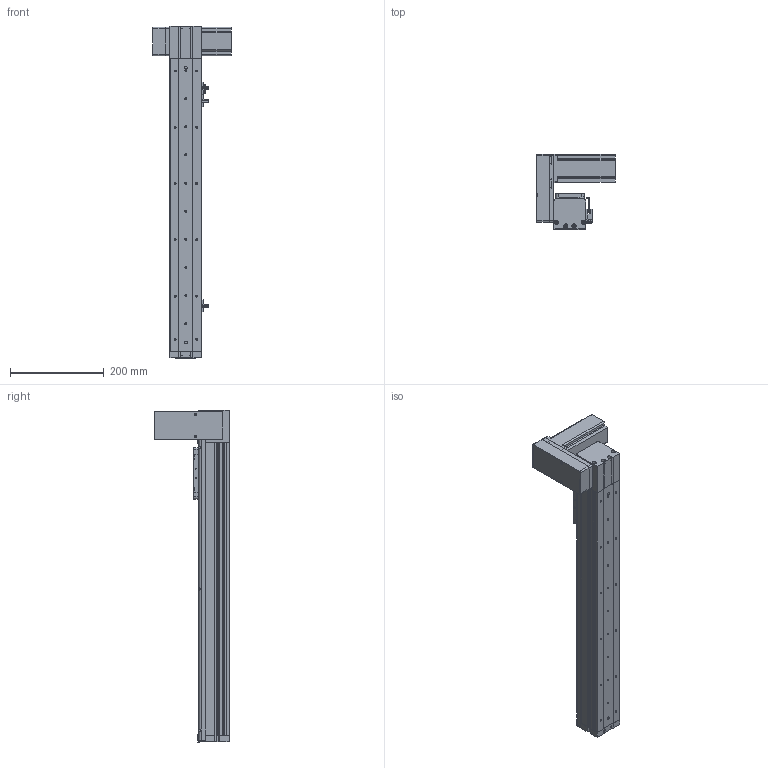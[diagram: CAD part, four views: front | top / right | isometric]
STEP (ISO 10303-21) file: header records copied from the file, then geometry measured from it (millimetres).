
FILE_DESCRIPTION (( 'STEP AP214' ), '1' );
FILE_NAME ('KSD68BS-S450-MRU-CR.STEP', '2019-11-08T05:51:17', ( '微软用户' ), ( '微软中国' ), 'SwSTEP 2.0', 'SolidWorks 2014', '' );
FILE_SCHEMA (( 'AUTOMOTIVE_DESIGN' ));
Length unit declared in the file: millimetre
Products named in the file (14): U倰嫖萇EEㄜSX672; 台达ECMA－C20604AS伺服电机（400W); KSD68BS 450行程底板全封闭; KSD68BS-S450-MRU-CR; 68遵裔啣揤啣1; KSD68BS 450行程盖板全封闭; 68宽单导轨全封闭丝杆传动安装板1防护罩; KSD68BS 450行程侧板全封闭; 68宽单导轨全封闭同步带端板; 68单导轨全封闭同步带电机座右; 68单导轨全封闭同步带安装板; 悵誘欶奻狟殏; 68宽马达安装板连板上折同步带; 感应片68宽全封闭
Assembly tree (17 placements, depth 2):
  KSD68BS-S450-MRU-CR
    KSD68BS 450行程底板全封闭
    台达ECMA－C20604AS伺服电机（400W)
    U倰嫖萇EEㄜSX672  x3
    感应片68宽全封闭
    68宽马达安装板连板上折同步带
    悵誘欶奻狟殏
    68单导轨全封闭同步带安装板
    68单导轨全封闭同步带电机座右
    68宽单导轨全封闭同步带端板
    KSD68BS 450行程侧板全封闭  x2
    68宽单导轨全封闭丝杆传动安装板1防护罩
    68遵裔啣揤啣1  x2
    KSD68BS 450行程盖板全封闭
Bounding box: 167.2 x 159.5 x 708.1 mm (x, y, z)
Volume: 1796804.9 mm3; surface area: 621987.9 mm2
Topology: 18 solids, 18 shells, 1388 faces, 3913 edges, 2515 vertices
Faces by surface type: cylinder 629, plane 623, cone 136
Entity records: 43114 total; most frequent: CARTESIAN_POINT 7221, DIRECTION 6529, ORIENTED_EDGE 6254, EDGE_CURVE 3127, AXIS2_PLACEMENT_3D 2325, VERTEX_POINT 2053, LINE 1879, VECTOR 1879
